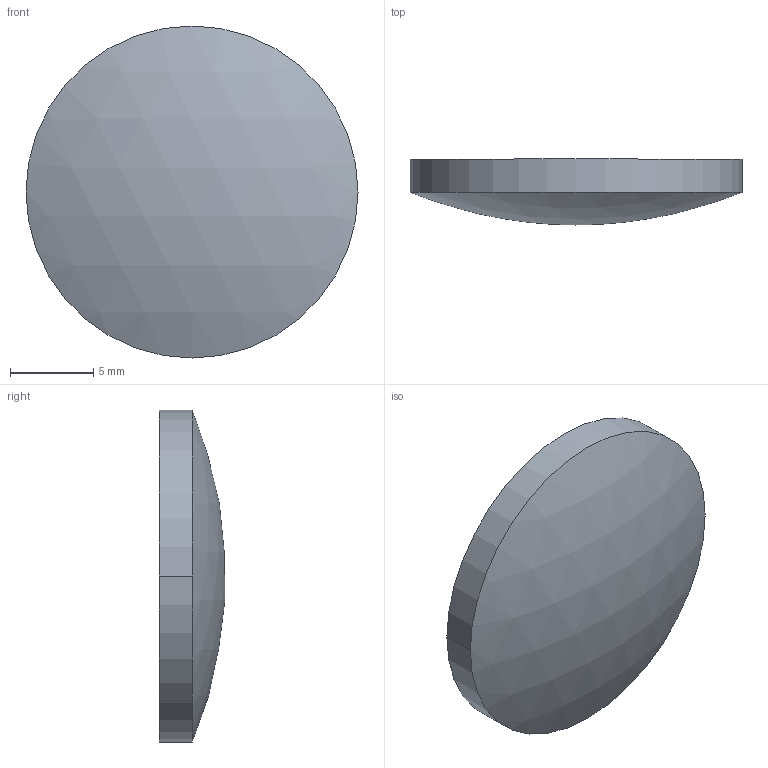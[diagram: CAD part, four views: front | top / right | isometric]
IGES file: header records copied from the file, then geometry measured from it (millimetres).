
Global section: file name: No Iges File Name specified; native system: AutoDesk Inventor R12.0; preprocessor: AutoDesk Inventor Iges Exporter R12.0; author: No Author specified; organization: No Organization specified; date: 20090513.101819; units: millimetre
Bounding box: 20 x 3.96 x 20 mm (x, y, z)
Volume: 946 mm3; surface area: 766.3 mm2
Topology: 1 solids, 1 shells, 4 faces, 6 edges, 4 vertices
Faces by surface type: cylinder 2, sphere 1, plane 1
